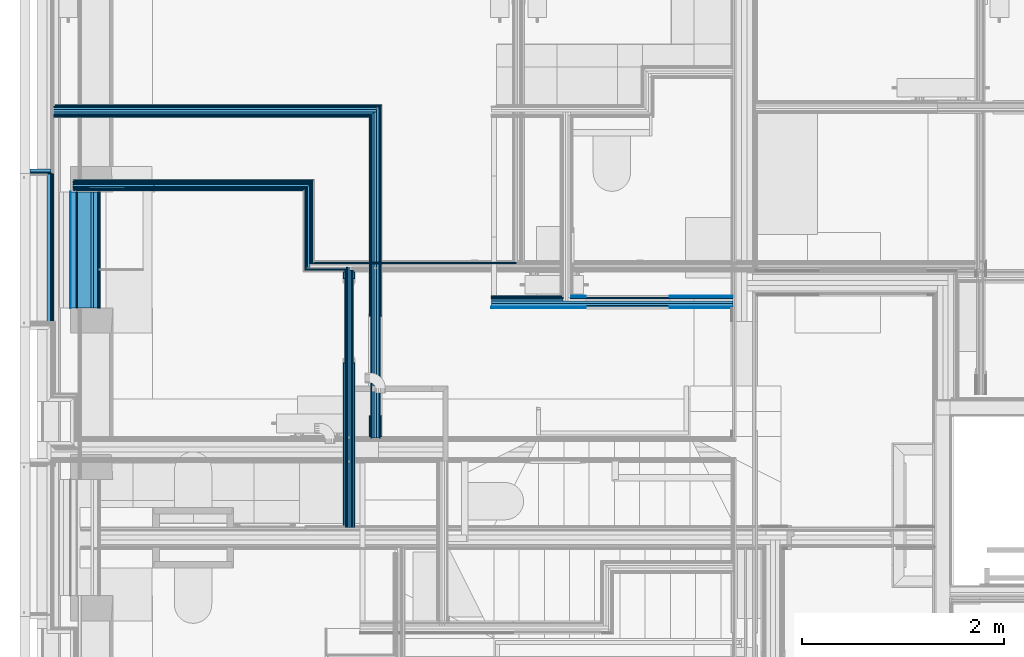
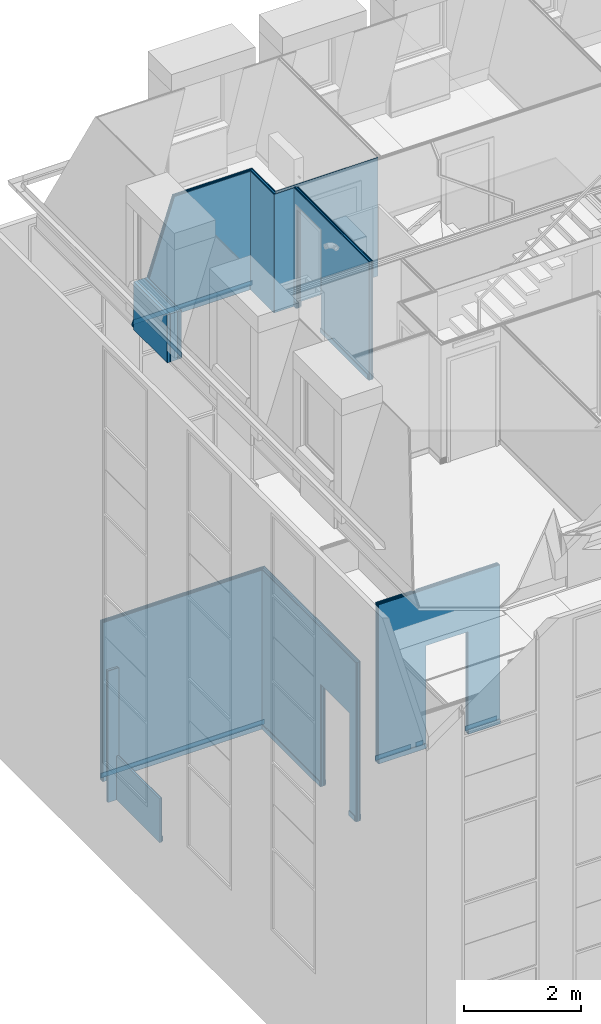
# One storey, part 25 of 169: 57 building element parts, 3 openings, 10 elements without a shape of their own.
"""IFC2X3 building model written with IfcOpenShell, lengths in metres."""

from ifc_helpers import new_model, entity, si_unit, converted_unit, derived_unit, money_unit, direction, frame, frame_2d, origin_with_axes, place, context, subcontext, project, spatial, polyline, rectangle, outline, extrude, clip, halfspace, material, type_object, element, aggregate, save


model = new_model("IFC2X3")

# Units and contexts
model_context = context("Model", 3, precision=1e-05, world=origin_with_axes(), true_north=direction((0.0, 1.0)))
body_context = subcontext(model_context, "Body", "Model", "MODEL_VIEW", scale=1.0)
ifc_project = project(units=[si_unit("LENGTHUNIT", "METRE"), si_unit("AREAUNIT", "SQUARE_METRE"), si_unit("VOLUMEUNIT", "CUBIC_METRE"), si_unit("ABSORBEDDOSEUNIT", "GRAY"), si_unit("AMOUNTOFSUBSTANCEUNIT", "MOLE"), si_unit("DOSEEQUIVALENTUNIT", "SIEVERT"), si_unit("ELECTRICCAPACITANCEUNIT", "FARAD"), si_unit("ELECTRICCHARGEUNIT", "COULOMB"), si_unit("ELECTRICCONDUCTANCEUNIT", "SIEMENS"), si_unit("ELECTRICCURRENTUNIT", "AMPERE"), si_unit("ELECTRICRESISTANCEUNIT", "OHM"), si_unit("ELECTRICVOLTAGEUNIT", "VOLT"), si_unit("ENERGYUNIT", "JOULE"), si_unit("FORCEUNIT", "NEWTON"), si_unit("FREQUENCYUNIT", "HERTZ"), si_unit("ILLUMINANCEUNIT", "LUX"), si_unit("INDUCTANCEUNIT", "HENRY"), si_unit("LUMINOUSFLUXUNIT", "LUMEN"), si_unit("LUMINOUSINTENSITYUNIT", "CANDELA"), si_unit("MAGNETICFLUXDENSITYUNIT", "TESLA"), si_unit("MAGNETICFLUXUNIT", "WEBER"), si_unit("MASSUNIT", "GRAM"), converted_unit("PLANEANGLEUNIT", "degree", entity("IfcReal", 0.0174532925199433), si_unit("PLANEANGLEUNIT", "RADIAN"), dimensions=[0, 0, 0, 0, 0, 0, 0]), si_unit("POWERUNIT", "WATT"), si_unit("PRESSUREUNIT", "PASCAL"), si_unit("RADIOACTIVITYUNIT", "BECQUEREL"), si_unit("SOLIDANGLEUNIT", "STERADIAN"), si_unit("THERMODYNAMICTEMPERATUREUNIT", "KELVIN"), si_unit("TIMEUNIT", "SECOND"), derived_unit("ACCELERATIONUNIT", [(si_unit("LENGTHUNIT", "METRE"), 1), (si_unit("TIMEUNIT", "SECOND"), -2)]), derived_unit("ANGULARVELOCITYUNIT", [(converted_unit("PLANEANGLEUNIT", "degree", entity("IfcReal", 0.0174532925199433), si_unit("PLANEANGLEUNIT", "RADIAN"), dimensions=[0, 0, 0, 0, 0, 0, 0]), 1), (si_unit("TIMEUNIT", "SECOND"), -1)]), derived_unit("CURVATUREUNIT", [(converted_unit("PLANEANGLEUNIT", "degree", entity("IfcReal", 0.0174532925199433), si_unit("PLANEANGLEUNIT", "RADIAN"), dimensions=[0, 0, 0, 0, 0, 0, 0]), 1), (si_unit("LENGTHUNIT", "METRE"), -1)]), derived_unit("DYNAMICVISCOSITYUNIT", [(si_unit("PRESSUREUNIT", "PASCAL"), 1), (si_unit("TIMEUNIT", "SECOND"), 1)]), derived_unit("HEATFLUXDENSITYUNIT", [(si_unit("POWERUNIT", "WATT"), 1), (si_unit("LENGTHUNIT", "METRE"), -2)]), derived_unit("HEATINGVALUEUNIT", [(si_unit("ENERGYUNIT", "JOULE"), 1), (si_unit("MASSUNIT", "GRAM"), -1)]), derived_unit("INTEGERCOUNTRATEUNIT", [(si_unit("TIMEUNIT", "SECOND"), -1)]), derived_unit("IONCONCENTRATIONUNIT", [(si_unit("MASSUNIT", "GRAM"), 1), (si_unit("VOLUMEUNIT", "CUBIC_METRE"), -1)]), derived_unit("ISOTHERMALMOISTURECAPACITYUNIT", [(si_unit("VOLUMEUNIT", "CUBIC_METRE"), 1), (si_unit("MASSUNIT", "GRAM"), -1)]), derived_unit("KINEMATICVISCOSITYUNIT", [(si_unit("AREAUNIT", "SQUARE_METRE"), 1), (si_unit("TIMEUNIT", "SECOND"), -1)]), derived_unit("LINEARFORCEUNIT", [(si_unit("FORCEUNIT", "NEWTON"), 1), (si_unit("LENGTHUNIT", "METRE"), -1)]), derived_unit("LINEARMOMENTUNIT", [(si_unit("FORCEUNIT", "NEWTON"), 1), (si_unit("LENGTHUNIT", "METRE"), -1)]), derived_unit("LINEARSTIFFNESSUNIT", [(si_unit("FORCEUNIT", "NEWTON"), 1), (si_unit("LENGTHUNIT", "METRE"), -1)]), derived_unit("LINEARVELOCITYUNIT", [(si_unit("LENGTHUNIT", "METRE"), 1), (si_unit("TIMEUNIT", "SECOND"), -1)]), derived_unit("LUMINOUSINTENSITYDISTRIBUTIONUNIT", [(si_unit("LUMINOUSINTENSITYUNIT", "CANDELA"), 1), (si_unit("LUMINOUSFLUXUNIT", "LUMEN"), -1)]), derived_unit("MASSDENSITYUNIT", [(si_unit("MASSUNIT", "GRAM"), 1), (si_unit("VOLUMEUNIT", "CUBIC_METRE"), -1)]), derived_unit("MASSFLOWRATEUNIT", [(si_unit("MASSUNIT", "GRAM"), 1), (si_unit("TIMEUNIT", "SECOND"), -1)]), derived_unit("MASSPERLENGTHUNIT", [(si_unit("MASSUNIT", "GRAM"), 1), (si_unit("LENGTHUNIT", "METRE"), -1)]), derived_unit("MODULUSOFELASTICITYUNIT", [(si_unit("FORCEUNIT", "NEWTON"), 1), (si_unit("AREAUNIT", "SQUARE_METRE"), -1)]), derived_unit("MODULUSOFLINEARSUBGRADEREACTIONUNIT", [(si_unit("FORCEUNIT", "NEWTON"), 1), (si_unit("LENGTHUNIT", "METRE"), -2)]), derived_unit("MODULUSOFROTATIONALSUBGRADEREACTIONUNIT", [(si_unit("FORCEUNIT", "NEWTON"), 1), (si_unit("LENGTHUNIT", "METRE"), 1)]), derived_unit("MODULUSOFSUBGRADEREACTIONUNIT", [(si_unit("FORCEUNIT", "NEWTON"), 1), (si_unit("VOLUMEUNIT", "CUBIC_METRE"), -1)]), derived_unit("MOISTUREDIFFUSIVITYUNIT", [(si_unit("VOLUMEUNIT", "CUBIC_METRE"), 1), (si_unit("TIMEUNIT", "SECOND"), -1)]), derived_unit("MOLECULARWEIGHTUNIT", [(si_unit("MASSUNIT", "GRAM"), 1), (si_unit("AMOUNTOFSUBSTANCEUNIT", "MOLE"), -1)]), derived_unit("PLANARFORCEUNIT", [(si_unit("FORCEUNIT", "NEWTON"), 1), (si_unit("LENGTHUNIT", "METRE"), -2)]), derived_unit("ROTATIONALFREQUENCYUNIT", [(si_unit("TIMEUNIT", "SECOND"), -1)]), derived_unit("ROTATIONALMASSUNIT", [(si_unit("MASSUNIT", "GRAM"), 1), (si_unit("LENGTHUNIT", "METRE"), 2)]), derived_unit("ROTATIONALSTIFFNESSUNIT", [(si_unit("FORCEUNIT", "NEWTON"), 1), (si_unit("LENGTHUNIT", "METRE"), 1), (converted_unit("PLANEANGLEUNIT", "degree", entity("IfcReal", 0.0174532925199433), si_unit("PLANEANGLEUNIT", "RADIAN"), dimensions=[0, 0, 0, 0, 0, 0, 0]), -1)]), derived_unit("SECTIONAREAINTEGRALUNIT", [(si_unit("LENGTHUNIT", "METRE"), 5)]), derived_unit("SECTIONMODULUSUNIT", [(si_unit("LENGTHUNIT", "METRE"), 3)]), derived_unit("SHEARMODULUSUNIT", [(si_unit("FORCEUNIT", "NEWTON"), 1), (si_unit("AREAUNIT", "SQUARE_METRE"), -1)]), derived_unit("SOUNDPOWERUNIT", [(si_unit("ENERGYUNIT", "JOULE"), 1), (si_unit("TIMEUNIT", "SECOND"), -1)]), derived_unit("SPECIFICHEATCAPACITYUNIT", [(si_unit("FORCEUNIT", "NEWTON"), 1), (si_unit("MASSUNIT", "GRAM"), -1), (si_unit("THERMODYNAMICTEMPERATUREUNIT", "KELVIN"), -1)]), derived_unit("TEMPERATUREGRADIENTUNIT", [(si_unit("THERMODYNAMICTEMPERATUREUNIT", "KELVIN"), 1), (si_unit("LENGTHUNIT", "METRE"), -1)]), derived_unit("THERMALADMITTANCEUNIT", [(si_unit("POWERUNIT", "WATT"), 1), (si_unit("AREAUNIT", "SQUARE_METRE"), -1), (si_unit("THERMODYNAMICTEMPERATUREUNIT", "KELVIN"), -1)]), derived_unit("THERMALCONDUCTANCEUNIT", [(si_unit("POWERUNIT", "WATT"), 1), (si_unit("LENGTHUNIT", "METRE"), -1), (si_unit("THERMODYNAMICTEMPERATUREUNIT", "KELVIN"), -1)]), derived_unit("THERMALEXPANSIONCOEFFICIENTUNIT", [(si_unit("THERMODYNAMICTEMPERATUREUNIT", "KELVIN"), -1)]), derived_unit("THERMALRESISTANCEUNIT", [(si_unit("AREAUNIT", "SQUARE_METRE"), 1), (si_unit("POWERUNIT", "WATT"), -1)]), derived_unit("THERMALTRANSMITTANCEUNIT", [(si_unit("POWERUNIT", "WATT"), 1), (si_unit("AREAUNIT", "SQUARE_METRE"), -1), (si_unit("THERMODYNAMICTEMPERATUREUNIT", "KELVIN"), -1)]), derived_unit("TORQUEUNIT", [(si_unit("FORCEUNIT", "NEWTON"), 1), (si_unit("LENGTHUNIT", "METRE"), 1)]), derived_unit("VAPORPERMEABILITYUNIT", [(si_unit("MASSUNIT", "GRAM"), 1), (si_unit("TIMEUNIT", "SECOND"), -1)]), derived_unit("VOLUMETRICFLOWRATEUNIT", [(si_unit("VOLUMEUNIT", "CUBIC_METRE"), 1), (si_unit("TIMEUNIT", "SECOND"), -1)]), derived_unit("WARPINGCONSTANTUNIT", [(si_unit("LENGTHUNIT", "METRE"), 6)]), derived_unit("WARPINGMOMENTUNIT", [(si_unit("FORCEUNIT", "NEWTON"), 1), (si_unit("LENGTHUNIT", "METRE"), 2)]), money_unit("GBP")], contexts=[model_context])

# Site, building, storey
site_placement = place(None, origin_with_axes())
site = spatial("IfcSite", under=ifc_project, at=site_placement, Name="Site", CompositionType="ELEMENT")
building_placement = place(site_placement, origin_with_axes())
building = spatial("IfcBuilding", under=site, at=building_placement, Name="Building01", CompositionType="ELEMENT")
storey_placement = place(building_placement, frame((0.0, 0.0, 5.15), z_axis=(0.0, 0.0, 1.0), x_axis=(1.0, 0.0, 0.0)))
storey = spatial("IfcBuildingStorey", under=building, at=storey_placement, Name="1F", CompositionType="ELEMENT", Elevation=5.15)

# Wall, opening, building element parts
wall_type_1 = type_object("IfcWallType", Name="SHE_A-Walls_Type05a_Partition_95mm_tall", PredefinedType="NOTDEFINED")
wall_1_placement = place(storey_placement, frame((7.064669, 9.79567, 0.0), z_axis=(0.0, 0.0, 1.0), x_axis=(-1.0, 0.0, 0.0)))
wall_1 = element("IfcWall", 1, at=wall_1_placement, inside=storey, type_object=wall_type_1, Name="5A", ObjectType="SHE_A-Walls_Type05a_Partition_95mm_tall")
opening_1_placement = place(wall_1_placement, frame((0.624, -0.05, 0.0), z_axis=(0.0, 0.0, 1.0), x_axis=(1.0, 0.0, 0.0)))
element("IfcOpeningElement", 2, at=opening_1_placement, cuts=wall_1, Name="Opening", ObjectType="Opening", context=body_context, shape_type="SweptSolid", body=[
    extrude(rectangle(XDim=2.142, YDim=0.834, at=frame_2d((-0.417, 1.071), x_axis=(0.0, -1.0))), frame((0.0, 0.0, 0.0), z_axis=(0.0, 1.0, 0.0), x_axis=(-1.0, 0.0, 0.0)), (0.0, 0.0, 1.0), 0.125),
])
ifc_material_1 = material(Name="A_BSUK_Walls_Timber")
placement_1 = place(wall_1_placement, origin_with_axes())
building_element_part_1 = element("IfcBuildingElementPart", 3, at=placement_1, material=ifc_material_1, Name="1", context=body_context, shape_type="SweptSolid", body=[
    extrude(rectangle(XDim=1.6, YDim=0.015, at=frame_2d((0.8, -0.0425), x_axis=(-1.0, 0.0))), frame((0.0, 0.0, 0.015), z_axis=(0.0, 0.0, 1.0), x_axis=(1.0, 0.0, 0.0)), (0.0, 0.0, 1.0), 0.1),
])
building_element_part_2 = element("IfcBuildingElementPart", 4, at=placement_1, material=ifc_material_1, Name="2", context=body_context, shape_type="SweptSolid", body=[
    extrude(rectangle(XDim=0.7, YDim=0.015, at=frame_2d((2.045, -0.0425), x_axis=(-1.0, 0.0))), frame((0.0, 0.0, 0.015), z_axis=(0.0, 0.0, 1.0), x_axis=(1.0, 0.0, 0.0)), (0.0, 0.0, 1.0), 0.1),
])
ifc_material_2 = material(Name="A_BSUK_WallInternal_Finishes_Plasterboard")
building_element_part_3 = element("IfcBuildingElementPart", 5, at=placement_1, material=ifc_material_2, Name="3", context=body_context, shape_type="SweptSolid", body=[
    extrude(rectangle(XDim=1.612, YDim=0.012, at=frame_2d((0.806, -0.029), x_axis=(-1.0, 0.0))), origin_with_axes(), (0.0, 0.0, 1.0), 3.32),
])
building_element_part_4 = element("IfcBuildingElementPart", 6, at=placement_1, material=ifc_material_2, Name="4", context=body_context, shape_type="SweptSolid", body=[
    extrude(rectangle(XDim=0.712, YDim=0.012, at=frame_2d((2.039, -0.029), x_axis=(-1.0, 0.0))), origin_with_axes(), (0.0, 0.0, 1.0), 3.32),
])
ifc_material_3 = material(Name="Air Cavity")
building_element_part_5 = element("IfcBuildingElementPart", 7, at=placement_1, material=ifc_material_3, Name="5", context=body_context, shape_type="SweptSolid", body=[
    extrude(rectangle(XDim=0.712, YDim=0.023, at=frame_2d((2.039, -0.0115), x_axis=(-1.0, 0.0))), origin_with_axes(), (0.0, 0.0, 1.0), 3.32),
])
ifc_material_4 = material(Name="A_BSUK_Insulation")
building_element_part_6 = element("IfcBuildingElementPart", 8, at=placement_1, material=ifc_material_4, Name="6", context=body_context, shape_type="SweptSolid", body=[
    extrude(rectangle(XDim=2.395, YDim=0.025, at=frame_2d((1.1975, 0.0125), x_axis=(-1.0, 0.0))), origin_with_axes(), (0.0, 0.0, 1.0), 3.32),
])
building_element_part_7 = element("IfcBuildingElementPart", 9, at=placement_1, material=ifc_material_3, Name="7", context=body_context, shape_type="SweptSolid", body=[
    extrude(rectangle(XDim=2.395, YDim=0.023, at=frame_2d((1.1975, 0.0365), x_axis=(-1.0, 0.0))), origin_with_axes(), (0.0, 0.0, 1.0), 3.32),
])
building_element_part_8 = element("IfcBuildingElementPart", 10, at=placement_1, material=ifc_material_2, Name="8", context=body_context, shape_type="SweptSolid", body=[
    extrude(rectangle(XDim=2.395, YDim=0.012, at=frame_2d((1.1975, 0.054), x_axis=(-1.0, 0.0))), origin_with_axes(), (0.0, 0.0, 1.0), 3.32),
])
building_element_part_9 = element("IfcBuildingElementPart", 11, at=placement_1, material=ifc_material_1, Name="9", context=body_context, shape_type="SweptSolid", body=[
    extrude(rectangle(XDim=2.395, YDim=0.015, at=frame_2d((1.1975, 0.0675), x_axis=(-1.0, 0.0))), frame((0.0, 0.0, 0.015), z_axis=(0.0, 0.0, 1.0), x_axis=(1.0, 0.0, 0.0)), (0.0, 0.0, 1.0), 0.1),
])
aggregate(wall_1, [building_element_part_1, building_element_part_2, building_element_part_3, building_element_part_4, building_element_part_5, building_element_part_6, building_element_part_7, building_element_part_8, building_element_part_9])

wall_2_placement = place(storey_placement, frame((3.534669, 8.43567, 0.0), z_axis=(0.0, 0.0, 1.0), x_axis=(0.0, 1.0, 0.0)))
wall_2 = element("IfcWall", 12, at=wall_2_placement, inside=storey, type_object=wall_type_1, Name="5A", ObjectType="SHE_A-Walls_Type05a_Partition_95mm_tall")
opening_2_placement = place(wall_2_placement, frame((0.223034, -0.05, 0.0), z_axis=(0.0, 0.0, 1.0), x_axis=(1.0, 0.0, 0.0)))
element("IfcOpeningElement", 13, at=opening_2_placement, cuts=wall_2, Name="Opening", ObjectType="Opening", context=body_context, shape_type="SweptSolid", body=[
    extrude(rectangle(XDim=0.984, YDim=2.142, at=frame_2d((-0.492, 1.071), x_axis=(1.0, 0.0))), frame((0.0, 0.0, 0.0), z_axis=(0.0, 1.0, 0.0), x_axis=(-1.0, 0.0, 0.0)), (0.0, 0.0, 1.0), 0.125),
])
placement_2 = place(wall_2_placement, origin_with_axes())
building_element_part_10 = element("IfcBuildingElementPart", 14, at=placement_2, material=ifc_material_1, Name="1", context=body_context, shape_type="SweptSolid", body=[
    extrude(outline(polyline([(3.29, -0.035), (0.015, -0.035), (0.015, -0.05), (3.305, -0.05), (3.29, -0.035)])), frame((0.0, 0.0, 0.015), z_axis=(0.0, 0.0, 1.0), x_axis=(1.0, 0.0, 0.0)), (0.0, 0.0, 1.0), 0.1),
])
building_element_part_11 = element("IfcBuildingElementPart", 15, at=placement_2, material=ifc_material_2, Name="2", context=body_context, shape_type="SweptSolid", body=[
    extrude(outline(polyline([(3.278, -0.023), (0.0, -0.023), (0.0, -0.035), (3.29, -0.035), (3.278, -0.023)])), origin_with_axes(), (0.0, 0.0, 1.0), 3.32),
])
building_element_part_12 = element("IfcBuildingElementPart", 16, at=placement_2, material=ifc_material_3, Name="3", context=body_context, shape_type="SweptSolid", body=[
    extrude(outline(polyline([(3.255, 0.0), (0.0, 0.0), (0.0, -0.023), (3.278, -0.023), (3.255, 0.0)])), origin_with_axes(), (0.0, 0.0, 1.0), 3.32),
])
building_element_part_13 = element("IfcBuildingElementPart", 17, at=placement_2, material=ifc_material_4, Name="4", context=body_context, shape_type="SweptSolid", body=[
    extrude(rectangle(XDim=3.23, YDim=0.025, at=frame_2d((1.615, 0.0125), x_axis=(-1.0, 0.0))), origin_with_axes(), (0.0, 0.0, 1.0), 3.32),
])
building_element_part_14 = element("IfcBuildingElementPart", 18, at=placement_2, material=ifc_material_3, Name="5", context=body_context, shape_type="SweptSolid", body=[
    extrude(rectangle(XDim=3.23, YDim=0.023, at=frame_2d((1.615, 0.0365), x_axis=(-1.0, 0.0))), origin_with_axes(), (0.0, 0.0, 1.0), 3.32),
])
building_element_part_15 = element("IfcBuildingElementPart", 19, at=placement_2, material=ifc_material_2, Name="6", context=body_context, shape_type="SweptSolid", body=[
    extrude(outline(polyline([(3.195, 0.06), (0.0, 0.06), (0.0, 0.048), (3.207, 0.048), (3.195, 0.06)])), origin_with_axes(), (0.0, 0.0, 1.0), 3.32),
])
building_element_part_16 = element("IfcBuildingElementPart", 20, at=placement_2, material=ifc_material_1, Name="7", context=body_context, shape_type="SweptSolid", body=[
    extrude(outline(polyline([(3.18, 0.075), (0.015, 0.075), (0.015, 0.06), (3.195, 0.06), (3.18, 0.075)])), frame((0.0, 0.0, 0.015), z_axis=(0.0, 0.0, 1.0), x_axis=(1.0, 0.0, 0.0)), (0.0, 0.0, 1.0), 0.1),
])
aggregate(wall_2, [building_element_part_10, building_element_part_11, building_element_part_12, building_element_part_13, building_element_part_14, building_element_part_15, building_element_part_16])

# Wall, building element parts
wall_3_placement = place(storey_placement, frame((0.333, 11.69067, 0.0), z_axis=(0.0, 0.0, 1.0), x_axis=(1.0, 0.0, 0.0)))
wall_3 = element("IfcWall", 21, at=wall_3_placement, inside=storey, type_object=wall_type_1, Name="5A", ObjectType="SHE_A-Walls_Type05a_Partition_95mm_tall")
placement_3 = place(wall_3_placement, origin_with_axes())
building_element_part_17 = element("IfcBuildingElementPart", 22, at=placement_3, material=ifc_material_1, Name="1", context=body_context, shape_type="SweptSolid", body=[
    extrude(outline(polyline([(3.141669, -0.06), (0.0, -0.06), (0.0, -0.075), (3.126669, -0.075), (3.141669, -0.06)])), frame((0.0, 0.0, 0.015), z_axis=(0.0, 0.0, 1.0), x_axis=(1.0, 0.0, 0.0)), (0.0, 0.0, 1.0), 0.1),
])
building_element_part_18 = element("IfcBuildingElementPart", 23, at=placement_3, material=ifc_material_2, Name="2", context=body_context, shape_type="SweptSolid", body=[
    extrude(outline(polyline([(3.153669, -0.048), (0.0, -0.048), (0.0, -0.06), (3.141669, -0.06), (3.153669, -0.048)])), origin_with_axes(), (0.0, 0.0, 1.0), 3.32),
])
building_element_part_19 = element("IfcBuildingElementPart", 24, at=placement_3, material=ifc_material_3, Name="3", context=body_context, shape_type="SweptSolid", body=[
    extrude(outline(polyline([(3.176669, -0.025), (0.0, -0.025), (0.0, -0.048), (3.153669, -0.048), (3.176669, -0.025)])), origin_with_axes(), (0.0, 0.0, 1.0), 3.32),
])
building_element_part_20 = element("IfcBuildingElementPart", 25, at=placement_3, material=ifc_material_4, Name="4", context=body_context, shape_type="SweptSolid", body=[
    extrude(rectangle(XDim=3.201669, YDim=0.025, at=frame_2d((1.600834, -0.0125), x_axis=(-1.0, 0.0))), origin_with_axes(), (0.0, 0.0, 1.0), 3.32),
])
building_element_part_21 = element("IfcBuildingElementPart", 26, at=placement_3, material=ifc_material_3, Name="5", context=body_context, shape_type="SweptSolid", body=[
    extrude(rectangle(XDim=3.201669, YDim=0.023, at=frame_2d((1.600834, 0.0115), x_axis=(-1.0, 0.0))), origin_with_axes(), (0.0, 0.0, 1.0), 3.32),
])
building_element_part_22 = element("IfcBuildingElementPart", 27, at=placement_3, material=ifc_material_2, Name="6", context=body_context, shape_type="SweptSolid", body=[
    extrude(outline(polyline([(3.236669, 0.035), (0.0, 0.035), (0.0, 0.023), (3.224669, 0.023), (3.236669, 0.035)])), origin_with_axes(), (0.0, 0.0, 1.0), 3.32),
])
building_element_part_23 = element("IfcBuildingElementPart", 28, at=placement_3, material=ifc_material_1, Name="7", context=body_context, shape_type="SweptSolid", body=[
    extrude(outline(polyline([(3.251669, 0.05), (0.015, 0.05), (0.015, 0.035), (3.236669, 0.035), (3.251669, 0.05)])), frame((0.0, 0.0, 0.015), z_axis=(0.0, 0.0, 1.0), x_axis=(1.0, 0.0, 0.0)), (0.0, 0.0, 1.0), 0.1),
])
aggregate(wall_3, [building_element_part_17, building_element_part_18, building_element_part_19, building_element_part_20, building_element_part_21, building_element_part_22, building_element_part_23])

wall_type_2 = type_object("IfcWallType", Name="SHE_A-Walls_Type06d_ExternalWallInsulation_48mm", PredefinedType="NOTDEFINED")
wall_4_placement = place(storey_placement, frame((0.306, 11.103, 0.0), z_axis=(0.0, 0.0, 1.0), x_axis=(-1.0, 0.0, 0.0)))
wall_4 = element("IfcWall", 29, at=wall_4_placement, inside=storey, type_object=wall_type_2, Name="6D", ObjectType="SHE_A-Walls_Type06d_ExternalWallInsulation_48mm")
placement_4 = place(wall_4_placement, origin_with_axes())
building_element_part_24 = element("IfcBuildingElementPart", 30, at=placement_4, material=ifc_material_4, Name="1", context=body_context, shape_type="SweptSolid", body=[
    extrude(rectangle(XDim=0.036, YDim=0.206, at=frame_2d((0.103, 0.018), x_axis=(0.0, -1.0))), origin_with_axes(), (0.0, 0.0, 1.0), 2.74),
])
building_element_part_25 = element("IfcBuildingElementPart", 31, at=placement_4, material=ifc_material_2, Name="2", context=body_context, shape_type="SweptSolid", body=[
    extrude(outline(polyline([(-0.012, 0.048), (0.001, 0.035), (0.206, 0.035), (0.206, 0.048), (-0.012, 0.048)])), origin_with_axes(), (0.0, 0.0, 1.0), 2.74),
])
aggregate(wall_4, [building_element_part_24, building_element_part_25])

wall_5_placement = place(storey_placement, frame((0.306, 11.055, 0.0), z_axis=(0.0, 0.0, 1.0), x_axis=(0.0, -1.0, 0.0)))
wall_5 = element("IfcWall", 32, at=wall_5_placement, inside=storey, type_object=wall_type_2, Name="6D", ObjectType="SHE_A-Walls_Type06d_ExternalWallInsulation_48mm")
placement_5 = place(wall_5_placement, origin_with_axes())
building_element_part_26 = element("IfcBuildingElementPart", 33, at=placement_5, material=ifc_material_4, Name="1", context=body_context, shape_type="SweptSolid", body=[
    extrude(rectangle(XDim=1.47782, YDim=0.036, at=frame_2d((0.73891, -0.018), x_axis=(-1.0, 0.0))), origin_with_axes(), (0.0, 0.0, 1.0), 0.915),
])
building_element_part_27 = element("IfcBuildingElementPart", 34, at=placement_5, material=ifc_material_2, Name="2", context=body_context, shape_type="SweptSolid", body=[
    extrude(rectangle(XDim=1.47782, YDim=0.013, at=frame_2d((0.73891, 0.0055), x_axis=(-1.0, 0.0))), origin_with_axes(), (0.0, 0.0, 1.0), 0.915),
])
building_element_part_28 = element("IfcBuildingElementPart", 35, at=placement_5, material=ifc_material_1, Name="3", context=body_context, shape_type="SweptSolid", body=[
    extrude(rectangle(XDim=1.47782, YDim=0.015, at=frame_2d((0.73891, 0.0195), x_axis=(-1.0, 0.0))), frame((0.0, 0.0, 0.015), z_axis=(0.0, 0.0, 1.0), x_axis=(1.0, 0.0, 0.0)), (0.0, 0.0, 1.0), 0.1),
])
aggregate(wall_5, [building_element_part_26, building_element_part_27, building_element_part_28])

# Wall, opening, building element parts
wall_type_3 = type_object("IfcWallType", Name="SHE_A-Walls_Type05b_Partition_80mm", PredefinedType="NOTDEFINED")
wall_6_placement = place(storey_placement, frame((3.272, 7.550061, 9.83), z_axis=(0.0, 0.0, 1.0), x_axis=(0.0, 1.0, 0.0)))
wall_6 = element("IfcWall", 36, at=wall_6_placement, inside=storey, type_object=wall_type_3, Name="5B", ObjectType="SHE_A-Walls_Type05b_Partition_80mm")
opening_3_placement = place(wall_6_placement, frame((1.632879, -0.043, 0.0), z_axis=(0.0, 0.0, 1.0), x_axis=(1.0, 0.0, 0.0)))
element("IfcOpeningElement", 37, at=opening_3_placement, cuts=wall_6, Name="Opening", ObjectType="Opening", context=body_context, shape_type="SweptSolid", body=[
    extrude(rectangle(XDim=0.834, YDim=2.142, at=frame_2d((-0.417, 1.071), x_axis=(-1.0, 0.0))), frame((0.0, 0.0, 0.0), z_axis=(0.0, 1.0, 0.0), x_axis=(-1.0, 0.0, 0.0)), (0.0, 0.0, 1.0), 0.11),
])
placement_6 = place(wall_6_placement, origin_with_axes())
building_element_part_29 = element("IfcBuildingElementPart", 38, at=placement_6, material=ifc_material_1, Name="1", context=body_context, shape_type="SweptSolid", body=[
    extrude(rectangle(XDim=2.534879, YDim=0.015, at=frame_2d((1.267439, -0.0355), x_axis=(-1.0, 0.0))), frame((0.0, 0.0, 0.015), z_axis=(0.0, 0.0, 1.0), x_axis=(1.0, 0.0, 0.0)), (0.0, 0.0, 1.0), 0.1),
])
building_element_part_30 = element("IfcBuildingElementPart", 39, at=placement_6, material=ifc_material_2, Name="2", context=body_context, shape_type="SweptSolid", body=[
    extrude(rectangle(XDim=2.549879, YDim=0.015, at=frame_2d((1.274939, -0.0205), x_axis=(-1.0, 0.0))), origin_with_axes(), (0.0, 0.0, 1.0), 2.468),
])
building_element_part_31 = element("IfcBuildingElementPart", 40, at=placement_6, material=ifc_material_3, Name="3", context=body_context, shape_type="SweptSolid", body=[
    extrude(rectangle(XDim=2.549879, YDim=0.013, at=frame_2d((1.274939, -0.0065), x_axis=(-1.0, 0.0))), origin_with_axes(), (0.0, 0.0, 1.0), 2.468),
])
building_element_part_32 = element("IfcBuildingElementPart", 41, at=placement_6, material=ifc_material_4, Name="4", context=body_context, shape_type="SweptSolid", body=[
    extrude(rectangle(XDim=2.576879, YDim=0.025, at=frame_2d((1.288439, 0.0125), x_axis=(-1.0, 0.0))), origin_with_axes(), (0.0, 0.0, 1.0), 2.468),
])
building_element_part_33 = element("IfcBuildingElementPart", 42, at=placement_6, material=ifc_material_3, Name="5", context=body_context, shape_type="SweptSolid", body=[
    extrude(rectangle(XDim=2.576879, YDim=0.012, at=frame_2d((1.288439, 0.031), x_axis=(-1.0, 0.0))), origin_with_axes(), (0.0, 0.0, 1.0), 2.468),
])
building_element_part_34 = element("IfcBuildingElementPart", 43, at=placement_6, material=ifc_material_2, Name="6", context=body_context, shape_type="SweptSolid", body=[
    extrude(rectangle(XDim=2.549879, YDim=0.015, at=frame_2d((1.274939, 0.0445), x_axis=(-1.0, 0.0))), origin_with_axes(), (0.0, 0.0, 1.0), 2.468),
])
building_element_part_35 = element("IfcBuildingElementPart", 44, at=placement_6, material=ifc_material_1, Name="7", context=body_context, shape_type="SweptSolid", body=[
    extrude(rectangle(XDim=2.519879, YDim=0.015, at=frame_2d((1.274939, 0.0595), x_axis=(-1.0, 0.0))), frame((0.0, 0.0, 0.015), z_axis=(0.0, 0.0, 1.0), x_axis=(1.0, 0.0, 0.0)), (0.0, 0.0, 1.0), 0.1),
])
aggregate(wall_6, [building_element_part_29, building_element_part_30, building_element_part_31, building_element_part_32, building_element_part_33, building_element_part_34, building_element_part_35])

# Wall, building element parts
wall_type_4 = type_object("IfcWallType", Name="SHE_A-Walls_Type06e_ExternalWallPenthouse_280mm", PredefinedType="NOTDEFINED")
wall_7_placement = place(storey_placement, frame((0.564939, 10.874915, 9.83), z_axis=(0.0, 0.0, 1.0), x_axis=(0.0, 1.0, 0.0)))
wall_7 = element("IfcWall", 45, at=wall_7_placement, inside=storey, type_object=wall_type_4, Name="6E", ObjectType="SHE_A-Walls_Type06e_ExternalWallPenthouse_280mm")
placement_7 = place(wall_7_placement, origin_with_axes())
building_element_part_36 = element("IfcBuildingElementPart", 46, at=placement_7, material=ifc_material_1, Name="1", context=body_context, shape_type="SweptSolid", body=[
    extrude(rectangle(XDim=1.149951, YDim=0.015, at=frame_2d((-0.574976, -0.2225), x_axis=(1.0, 0.0))), frame((0.0, 0.0, 0.015), z_axis=(0.0, 0.0, 1.0), x_axis=(1.0, 0.0, 0.0)), (0.0, 0.0, 1.0), 0.1),
])
building_element_part_37 = element("IfcBuildingElementPart", 47, at=placement_7, material=ifc_material_2, Name="2", context=body_context, shape_type="SweptSolid", body=[
    extrude(rectangle(XDim=1.149951, YDim=0.01, at=frame_2d((-0.574976, -0.21), x_axis=(1.0, 0.0))), origin_with_axes(), (0.0, 0.0, 1.0), 1.0),
])
building_element_part_38 = element("IfcBuildingElementPart", 48, at=placement_7, material=ifc_material_4, Name="3", context=body_context, shape_type="SweptSolid", body=[
    extrude(rectangle(XDim=1.149951, YDim=0.04, at=frame_2d((-0.574976, -0.185), x_axis=(1.0, 0.0))), origin_with_axes(), (0.0, 0.0, 1.0), 1.0),
])
building_element_part_39 = element("IfcBuildingElementPart", 49, at=placement_7, material=ifc_material_3, Name="4", context=body_context, shape_type="SweptSolid", body=[
    extrude(rectangle(XDim=1.149951, YDim=0.025, at=frame_2d((-0.574976, -0.1525), x_axis=(1.0, 0.0))), origin_with_axes(), (0.0, 0.0, 1.0), 1.0),
])
building_element_part_40 = element("IfcBuildingElementPart", 50, at=placement_7, material=ifc_material_4, Name="5", context=body_context, shape_type="SweptSolid", body=[
    extrude(rectangle(XDim=1.149951, YDim=0.14, at=frame_2d((-0.574976, -0.07), x_axis=(1.0, 0.0))), origin_with_axes(), (0.0, 0.0, 1.0), 1.0),
])
building_element_part_41 = element("IfcBuildingElementPart", 51, at=placement_7, material=ifc_material_1, Name="6", context=body_context, shape_type="SweptSolid", body=[
    extrude(rectangle(XDim=1.149951, YDim=0.01, at=frame_2d((-0.574976, 0.005), x_axis=(1.0, 0.0))), origin_with_axes(), (0.0, 0.0, 1.0), 1.0),
])
building_element_part_42 = element("IfcBuildingElementPart", 52, at=placement_7, material=ifc_material_3, Name="7", context=body_context, shape_type="SweptSolid", body=[
    extrude(rectangle(XDim=1.149951, YDim=0.05, at=frame_2d((-0.574976, 0.035), x_axis=(1.0, 0.0))), origin_with_axes(), (0.0, 0.0, 1.0), 1.0),
])
ifc_material_5 = material(Name="A_BSUK_WallInternal_Finishes_Metal")
building_element_part_43 = element("IfcBuildingElementPart", 53, at=placement_7, material=ifc_material_5, Name="8", context=body_context, shape_type="SweptSolid", body=[
    extrude(rectangle(XDim=1.149951, YDim=0.005, at=frame_2d((-0.574976, 0.0625), x_axis=(1.0, 0.0))), origin_with_axes(), (0.0, 0.0, 1.0), 1.0),
])
aggregate(wall_7, [building_element_part_36, building_element_part_37, building_element_part_38, building_element_part_39, building_element_part_40, building_element_part_41, building_element_part_42, building_element_part_43])

wall_8_placement = place(storey_placement, frame((2.872, 10.126939, 9.83), z_axis=(0.0, 0.0, 1.0), x_axis=(1.0, 0.0, 0.0)))
wall_8 = element("IfcWall", 54, at=wall_8_placement, inside=storey, type_object=wall_type_3, Name="5B", ObjectType="SHE_A-Walls_Type05b_Partition_80mm")
placement_8 = place(wall_8_placement, origin_with_axes())
building_element_part_44 = element("IfcBuildingElementPart", 55, at=placement_8, material=ifc_material_2, Name="3", context=body_context, shape_type="SweptSolid", body=[
    extrude(rectangle(XDim=0.4, YDim=0.015, at=frame_2d((0.163, -0.0195), x_axis=(-1.0, 0.0))), origin_with_axes(), (0.0, 0.0, 1.0), 2.468),
])
building_element_part_45 = element("IfcBuildingElementPart", 56, at=placement_8, material=ifc_material_2, Name="8", context=body_context, shape_type="SweptSolid", body=[
    extrude(rectangle(XDim=2.015024, YDim=0.015, at=frame_2d((1.035512, 0.0455), x_axis=(-1.0, 0.0))), origin_with_axes(), (0.0, 0.0, 1.0), 2.468),
])
aggregate(wall_8, [building_element_part_44, building_element_part_45])

wall_9_placement = place(storey_placement, frame((2.873, 10.952915, 9.83), z_axis=(0.0, 0.0, 1.0), x_axis=(-1.0, 0.0, 0.0)))
wall_9 = element("IfcWall", 57, at=wall_9_placement, inside=storey, type_object=wall_type_3, Name="5B", ObjectType="SHE_A-Walls_Type05b_Partition_80mm")
placement_9 = place(wall_9_placement, origin_with_axes())
building_element_part_46 = element("IfcBuildingElementPart", 58, at=placement_9, material=ifc_material_1, Name="1", context=body_context, shape_type="Clipping", body=[
    clip(extrude(outline(polyline([(2.34427, -0.027), (-0.027, -0.027), (-0.042, -0.042), (2.34427, -0.042), (2.34427, -0.027)])), frame((0.0, 0.0, 0.015), z_axis=(0.0, 0.0, 1.0), x_axis=(1.0, 0.0, 0.0)), (0.0, 0.0, 1.0), 0.1), halfspace(frame((2.12482, 0.0, 0.690396), z_axis=(-0.95105652, 0.0, -0.30901699), x_axis=(0.0, -1.0, 0.0)), True)),
])
building_element_part_47 = element("IfcBuildingElementPart", 59, at=placement_9, material=ifc_material_2, Name="2", context=body_context, shape_type="Clipping", body=[
    clip(extrude(outline(polyline([(2.349143, -0.012), (-0.012, -0.012), (-0.027, -0.027), (2.349143, -0.027), (2.349143, -0.012)])), origin_with_axes(), (0.0, 0.0, 1.0), 2.468), halfspace(frame((2.12482, 0.0, 0.690396), z_axis=(-0.95105652, 0.0, -0.30901699), x_axis=(0.0, -1.0, 0.0)), True)),
])
building_element_part_48 = element("IfcBuildingElementPart", 60, at=placement_9, material=ifc_material_3, Name="3", context=body_context, shape_type="Clipping", body=[
    clip(extrude(outline(polyline([(2.349143, 0.0), (0.0, 0.0), (-0.012, -0.012), (2.349143, -0.012), (2.349143, 0.0)])), origin_with_axes(), (0.0, 0.0, 1.0), 2.468), halfspace(frame((2.12482, 0.0, 0.690396), z_axis=(-0.95105652, 0.0, -0.30901699), x_axis=(0.0, -1.0, 0.0)), True)),
])
building_element_part_49 = element("IfcBuildingElementPart", 61, at=placement_9, material=ifc_material_4, Name="4", context=body_context, shape_type="Clipping", body=[
    clip(extrude(outline(polyline([(2.349143, 0.025), (0.025, 0.025), (0.0, 0.0), (2.349143, 0.0), (2.349143, 0.025)])), origin_with_axes(), (0.0, 0.0, 1.0), 2.468), halfspace(frame((2.12482, 0.0, 0.690396), z_axis=(-0.95105652, 0.0, -0.30901699), x_axis=(0.0, -1.0, 0.0)), True)),
])
building_element_part_50 = element("IfcBuildingElementPart", 62, at=placement_9, material=ifc_material_3, Name="5", context=body_context, shape_type="Clipping", body=[
    clip(extrude(outline(polyline([(2.349143, 0.038), (0.038, 0.038), (0.025, 0.025), (2.349143, 0.025), (2.349143, 0.038)])), origin_with_axes(), (0.0, 0.0, 1.0), 2.468), halfspace(frame((2.12482, 0.0, 0.690396), z_axis=(-0.95105652, 0.0, -0.30901699), x_axis=(0.0, -1.0, 0.0)), True)),
])
building_element_part_51 = element("IfcBuildingElementPart", 63, at=placement_9, material=ifc_material_2, Name="6", context=body_context, shape_type="Clipping", body=[
    clip(extrude(outline(polyline([(2.349143, 0.053), (0.053, 0.053), (0.038, 0.038), (2.349143, 0.038), (2.349143, 0.053)])), origin_with_axes(), (0.0, 0.0, 1.0), 2.468), halfspace(frame((2.12482, 0.0, 0.690396), z_axis=(-0.95105652, 0.0, -0.30901699), x_axis=(0.0, -1.0, 0.0)), True)),
])
building_element_part_52 = element("IfcBuildingElementPart", 64, at=placement_9, material=ifc_material_1, Name="7", context=body_context, shape_type="Clipping", body=[
    clip(extrude(outline(polyline([(2.34427, 0.068), (0.068, 0.068), (0.053, 0.053), (2.34427, 0.053), (2.34427, 0.068)])), frame((0.0, 0.0, 0.015), z_axis=(0.0, 0.0, 1.0), x_axis=(1.0, 0.0, 0.0)), (0.0, 0.0, 1.0), 0.1), halfspace(frame((2.12482, 0.0, 0.690396), z_axis=(-0.95105652, 0.0, -0.30901699), x_axis=(0.0, -1.0, 0.0)), True)),
])
aggregate(wall_9, [building_element_part_46, building_element_part_47, building_element_part_48, building_element_part_49, building_element_part_50, building_element_part_51, building_element_part_52])

wall_10_placement = place(storey_placement, frame((2.872, 10.126939, 9.83), z_axis=(0.0, 0.0, 1.0), x_axis=(0.0, 1.0, 0.0)))
wall_10 = element("IfcWall", 65, at=wall_10_placement, inside=storey, type_object=wall_type_3, Name="5B", ObjectType="SHE_A-Walls_Type05b_Partition_80mm")
placement_10 = place(wall_10_placement, origin_with_axes())
building_element_part_53 = element("IfcBuildingElementPart", 66, at=placement_10, material=ifc_material_2, Name="2", context=body_context, shape_type="SweptSolid", body=[
    extrude(outline(polyline([(0.837976, -0.013), (0.038, -0.013), (0.038, -0.028), (0.852976, -0.028), (0.837976, -0.013)])), origin_with_axes(), (0.0, 0.0, 1.0), 2.468),
])
building_element_part_54 = element("IfcBuildingElementPart", 67, at=placement_10, material=ifc_material_3, Name="3", context=body_context, shape_type="SweptSolid", body=[
    extrude(outline(polyline([(0.824976, 0.0), (0.038, 0.0), (0.038, -0.013), (0.837976, -0.013), (0.824976, 0.0)])), origin_with_axes(), (0.0, 0.0, 1.0), 2.468),
])
building_element_part_55 = element("IfcBuildingElementPart", 68, at=placement_10, material=ifc_material_4, Name="4", context=body_context, shape_type="SweptSolid", body=[
    extrude(outline(polyline([(0.799976, 0.025), (0.0, 0.025), (0.0, 0.0), (0.824976, 0.0), (0.799976, 0.025)])), origin_with_axes(), (0.0, 0.0, 1.0), 2.468),
])
building_element_part_56 = element("IfcBuildingElementPart", 69, at=placement_10, material=ifc_material_3, Name="5", context=body_context, shape_type="SweptSolid", body=[
    extrude(outline(polyline([(0.787976, 0.037), (0.0, 0.037), (0.0, 0.025), (0.799976, 0.025), (0.787976, 0.037)])), origin_with_axes(), (0.0, 0.0, 1.0), 2.468),
])
building_element_part_57 = element("IfcBuildingElementPart", 70, at=placement_10, material=ifc_material_2, Name="6", context=body_context, shape_type="SweptSolid", body=[
    extrude(outline(polyline([(0.772976, 0.052), (-0.027, 0.052), (-0.027, 0.037), (0.787976, 0.037), (0.772976, 0.052)])), origin_with_axes(), (0.0, 0.0, 1.0), 2.468),
])
aggregate(wall_10, [building_element_part_53, building_element_part_54, building_element_part_55, building_element_part_56, building_element_part_57])

save(model, "model.ifc")
